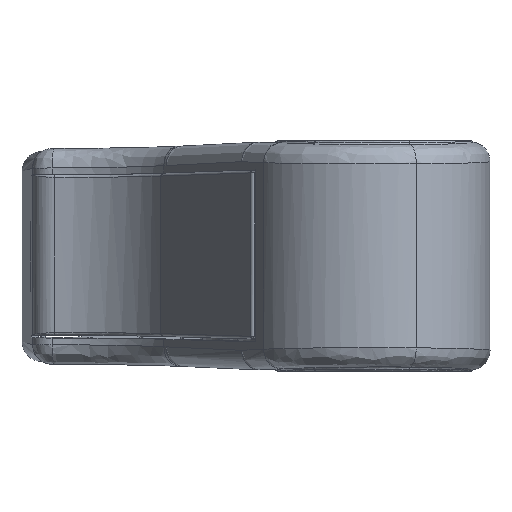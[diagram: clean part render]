
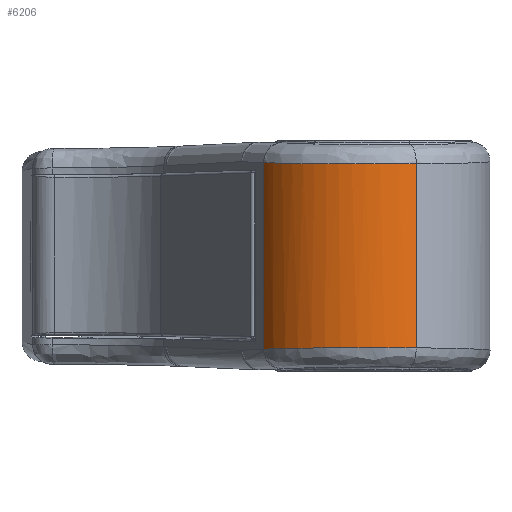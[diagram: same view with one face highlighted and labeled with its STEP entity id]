
A CAD part, top view. The second image highlights one B-rep face of the part: STEP entity #6206.
In plain terms, the highlighted cylindrical face has radius 17.65 mm (diameter 35.3 mm), a partial arc.
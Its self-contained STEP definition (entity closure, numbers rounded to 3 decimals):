
#147 = VERTEX_POINT ( 'NONE', #12247 ) ;
#480 = CARTESIAN_POINT ( 'NONE',  ( 44.945, -13.188, 64.748 ) ) ;
#1143 = CARTESIAN_POINT ( 'NONE',  ( 57.152, 13.157, 66.162 ) ) ;
#1256 = CARTESIAN_POINT ( 'NONE',  ( 59.144, 13.174, 65.392 ) ) ;
#1366 = ORIENTED_EDGE ( 'NONE', *, *, #18232, .T. ) ;
#1467 = CARTESIAN_POINT ( 'NONE',  ( 38.508, 13.307, 59.364 ) ) ;
#1515 = CARTESIAN_POINT ( 'NONE',  ( 39.939, -13.269, 61.082 ) ) ;
#2465 = LINE ( 'NONE', #7230, #6861 ) ;
#2912 = CARTESIAN_POINT ( 'NONE',  ( 47.142, 13.168, 65.652 ) ) ;
#2981 = LINE ( 'NONE', #11500, #12155 ) ;
#3023 = CARTESIAN_POINT ( 'NONE',  ( 45.826, 13.178, 65.175 ) ) ;
#3174 = CARTESIAN_POINT ( 'NONE',  ( 38.508, -13.307, 59.364 ) ) ;
#3279 = CARTESIAN_POINT ( 'NONE',  ( 46.654, -13.172, 65.478 ) ) ;
#4462 = CARTESIAN_POINT ( 'NONE',  ( 39.939, 13.269, 61.082 ) ) ;
#4590 = AXIS2_PLACEMENT_3D ( 'NONE', #11730, #10400, #5199 ) ;
#4673 = CARTESIAN_POINT ( 'NONE',  ( 46.723, 13.171, 65.503 ) ) ;
#4784 = CARTESIAN_POINT ( 'NONE',  ( 43.203, 13.21, 63.783 ) ) ;
#4834 = CARTESIAN_POINT ( 'NONE',  ( 46.516, -13.173, 65.426 ) ) ;
#4912 = CARTESIAN_POINT ( 'NONE',  ( 59.144, 13.174, 65.392 ) ) ;
#4942 = CARTESIAN_POINT ( 'NONE',  ( 46.682, -13.172, 65.488 ) ) ;
#4979 = FACE_OUTER_BOUND ( 'NONE', #11355, .T. ) ;
#5199 = DIRECTION ( 'NONE',  ( 1., 0., 0. ) ) ;
#6126 = CARTESIAN_POINT ( 'NONE',  ( 40.718, 13.252, 61.85 ) ) ;
#6206 = ADVANCED_FACE ( 'NONE', ( #4979 ), #6967, .T. ) ;
#6238 = CARTESIAN_POINT ( 'NONE',  ( 46.925, 13.17, 65.576 ) ) ;
#6560 = CARTESIAN_POINT ( 'NONE',  ( 50.793, 13.15, 66.496 ) ) ;
#6607 = CARTESIAN_POINT ( 'NONE',  ( 44.507, -13.193, 64.523 ) ) ;
#6751 = B_SPLINE_CURVE_WITH_KNOTS ( 'NONE', 3,
 ( #1256, #1143, #19712, #19606, #6560, #13200, #16716, #18056, #9569, #2912, #6238, #16290, #8017, #12878, #4673, #3023, #21366, #4784, #9784, #6126, #4462, #1467, #11325, #11537 ),
 .UNSPECIFIED., .F., .F.,
 ( 4, 2, 2, 2, 1, 1, 1, 1, 2, 2, 2, 2, 2, 4 ),
 ( 0., 0.25, 0.375, 0.438, 0.469, 0.484, 0.492, 0.496, 0.498, 0.5, 0.625, 0.75, 0.875, 1. ),
 .UNSPECIFIED. ) ;
#6861 = VECTOR ( 'NONE', #15513, 1000. ) ;
#6967 = CYLINDRICAL_SURFACE ( 'NONE', #4590, 17.65 ) ;
#7230 = CARTESIAN_POINT ( 'NONE',  ( 59.144, -14.685, 65.392 ) ) ;
#8017 = CARTESIAN_POINT ( 'NONE',  ( 46.771, 13.171, 65.521 ) ) ;
#8183 = DIRECTION ( 'NONE',  ( 0., 1., 0. ) ) ;
#8384 = CARTESIAN_POINT ( 'NONE',  ( 57.152, -13.157, 66.162 ) ) ;
#9569 = CARTESIAN_POINT ( 'NONE',  ( 47.579, 13.165, 65.795 ) ) ;
#9784 = CARTESIAN_POINT ( 'NONE',  ( 42.349, 13.223, 63.2 ) ) ;
#9933 = CARTESIAN_POINT ( 'NONE',  ( 40.718, -13.252, 61.85 ) ) ;
#10044 = CARTESIAN_POINT ( 'NONE',  ( 46.694, -13.171, 65.493 ) ) ;
#10400 = DIRECTION ( 'NONE',  ( 0., 1., 0. ) ) ;
#10559 = CARTESIAN_POINT ( 'NONE',  ( 48.681, -13.155, 66.221 ) ) ;
#10671 = CARTESIAN_POINT ( 'NONE',  ( 46.157, -13.176, 65.286 ) ) ;
#11325 = CARTESIAN_POINT ( 'NONE',  ( 37.855, 13.328, 58.413 ) ) ;
#11355 = EDGE_LOOP ( 'NONE', ( #1366, #21877, #20988, #17267 ) ) ;
#11500 = CARTESIAN_POINT ( 'NONE',  ( 37.291, 0.12, 57.379 ) ) ;
#11537 = CARTESIAN_POINT ( 'NONE',  ( 37.291, 13.35, 57.379 ) ) ;
#11588 = CARTESIAN_POINT ( 'NONE',  ( 50.791, -13.148, 66.592 ) ) ;
#11693 = CARTESIAN_POINT ( 'NONE',  ( 42.349, -13.223, 63.2 ) ) ;
#11730 = CARTESIAN_POINT ( 'NONE',  ( 52.786, -13.51, 48.927 ) ) ;
#12155 = VECTOR ( 'NONE', #8183, 1000. ) ;
#12247 = CARTESIAN_POINT ( 'NONE',  ( 37.291, -13.35, 57.379 ) ) ;
#12299 = EDGE_CURVE ( 'NONE', #147, #21798, #2981, .T. ) ;
#12708 = EDGE_CURVE ( 'NONE', #19281, #20714, #2465, .T. ) ;
#12878 = CARTESIAN_POINT ( 'NONE',  ( 46.74, 13.171, 65.51 ) ) ;
#13200 = CARTESIAN_POINT ( 'NONE',  ( 49.235, 13.156, 66.224 ) ) ;
#13361 = CARTESIAN_POINT ( 'NONE',  ( 45.826, -13.179, 65.149 ) ) ;
#13468 = CARTESIAN_POINT ( 'NONE',  ( 55.027, -13.148, 66.562 ) ) ;
#13640 = CARTESIAN_POINT ( 'NONE',  ( 37.291, 13.35, 57.379 ) ) ;
#13995 = CARTESIAN_POINT ( 'NONE',  ( 46.323, -13.175, 65.352 ) ) ;
#15016 = CARTESIAN_POINT ( 'NONE',  ( 37.855, -13.328, 58.413 ) ) ;
#15119 = CARTESIAN_POINT ( 'NONE',  ( 46.613, -13.172, 65.463 ) ) ;
#15513 = DIRECTION ( 'NONE',  ( 0., 1., 0. ) ) ;
#16290 = CARTESIAN_POINT ( 'NONE',  ( 46.817, 13.17, 65.537 ) ) ;
#16716 = CARTESIAN_POINT ( 'NONE',  ( 48.72, 13.158, 66.111 ) ) ;
#17267 = ORIENTED_EDGE ( 'NONE', *, *, #12299, .F. ) ;
#18056 = CARTESIAN_POINT ( 'NONE',  ( 47.958, 13.162, 65.906 ) ) ;
#18232 = EDGE_CURVE ( 'NONE', #147, #19281, #20725, .T. ) ;
#18682 = CARTESIAN_POINT ( 'NONE',  ( 59.144, -13.174, 65.392 ) ) ;
#18954 = CARTESIAN_POINT ( 'NONE',  ( 45.606, -13.181, 65.053 ) ) ;
#19281 = VERTEX_POINT ( 'NONE', #18682 ) ;
#19606 = CARTESIAN_POINT ( 'NONE',  ( 51.85, 13.148, 66.584 ) ) ;
#19712 = CARTESIAN_POINT ( 'NONE',  ( 55.027, 13.148, 66.562 ) ) ;
#19973 = CARTESIAN_POINT ( 'NONE',  ( 37.291, -13.35, 57.379 ) ) ;
#20714 = VERTEX_POINT ( 'NONE', #4912 ) ;
#20725 = B_SPLINE_CURVE_WITH_KNOTS ( 'NONE', 3,
 ( #19973, #15016, #3174, #1515, #9933, #11693, #21735, #6607, #480, #18954, #13361, #10671, #13995, #4834, #15119, #3279, #4942, #10044, #10559, #11588, #13468, #8384, #21841 ),
 .UNSPECIFIED., .F., .F.,
 ( 4, 2, 2, 2, 2, 2, 1, 1, 1, 2, 2, 2, 4 ),
 ( 0., 0.125, 0.25, 0.375, 0.437, 0.469, 0.484, 0.492, 0.496, 0.498, 0.5, 0.75, 1. ),
 .UNSPECIFIED. ) ;
#20988 = ORIENTED_EDGE ( 'NONE', *, *, #21663, .T. ) ;
#21366 = CARTESIAN_POINT ( 'NONE',  ( 44.941, 13.188, 64.77 ) ) ;
#21663 = EDGE_CURVE ( 'NONE', #20714, #21798, #6751, .T. ) ;
#21735 = CARTESIAN_POINT ( 'NONE',  ( 43.203, -13.21, 63.783 ) ) ;
#21798 = VERTEX_POINT ( 'NONE', #13640 ) ;
#21841 = CARTESIAN_POINT ( 'NONE',  ( 59.144, -13.174, 65.392 ) ) ;
#21877 = ORIENTED_EDGE ( 'NONE', *, *, #12708, .T. ) ;
